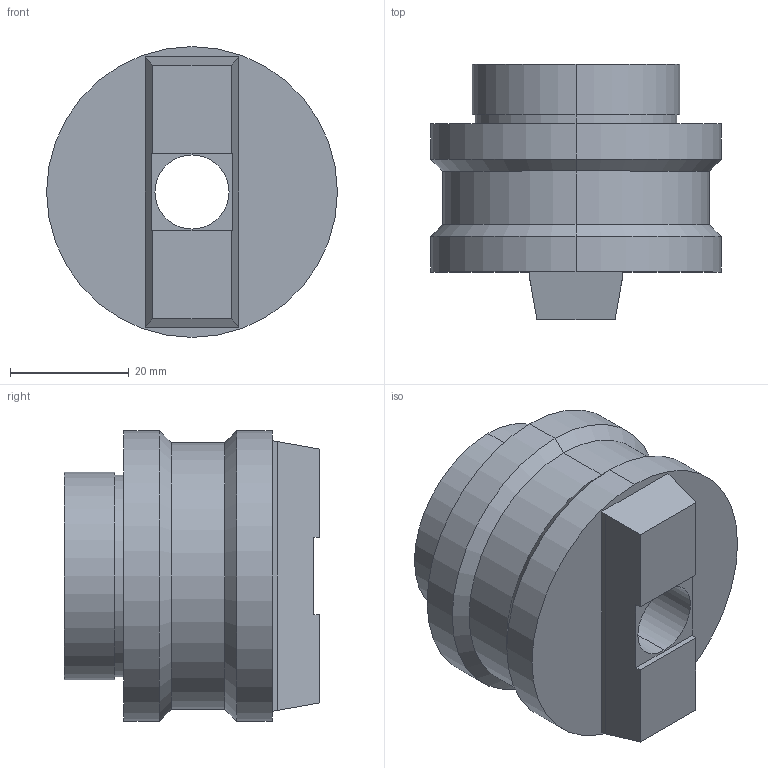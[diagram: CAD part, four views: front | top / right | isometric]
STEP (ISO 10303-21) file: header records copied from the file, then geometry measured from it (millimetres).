
FILE_DESCRIPTION (( 'STEP AP214' ), '1' );
FILE_NAME ('1A3-2040-0-S_MultiZero Cylindrical Support D50 H35.STEP', '2024-09-25T17:36:10', ( '' ), ( '' ), 'SwSTEP 2.0', 'SolidWorks 2018', '' );
FILE_SCHEMA (( 'AUTOMOTIVE_DESIGN' ));
Length unit declared in the file: millimetre
Products named in the file (1): 1A3-2040-0-S_MultiZero Cylindrical Support D50 H35
Bounding box: 49 x 43 x 49 mm (x, y, z)
Volume: 51165.3 mm3; surface area: 11405.2 mm2
Topology: 1 solids, 1 shells, 34 faces, 76 edges, 48 vertices
Faces by surface type: plane 16, cylinder 14, cone 4
Entity records: 982 total; most frequent: DIRECTION 174, CARTESIAN_POINT 159, ORIENTED_EDGE 152, EDGE_CURVE 76, AXIS2_PLACEMENT_3D 63, VERTEX_POINT 48, VECTOR 48, LINE 48
